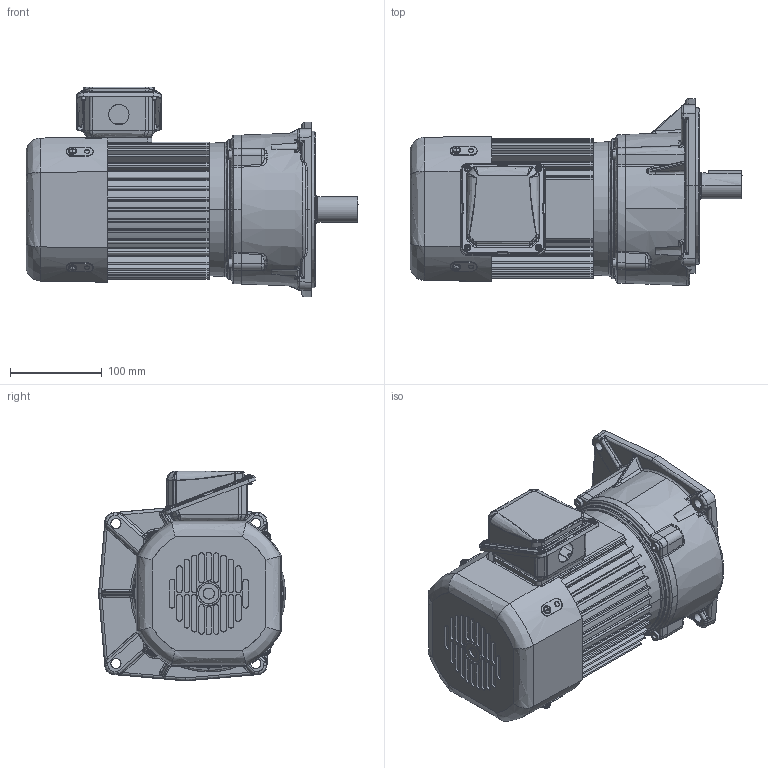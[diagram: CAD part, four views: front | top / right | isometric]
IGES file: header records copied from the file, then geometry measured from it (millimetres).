
Start section: SolidWorks IGES file using analytic representation for surfaces
Global section: file name: \\100.100.100.8\1_共有作業フォルダ\1-5_３Ｄデータ\solidworks\personal-folder\H.Nagayama\SGP1外形075~370\P1(3D)_075~370\igs\TMF2-07-(5~25).IGS; native system: SolidWorks 2018; preprocessor: SolidWorks 2018; author: sigma-giken; date: 200806.151419; units: millimetre
Bounding box: 361 x 203.34 x 228.2 mm (x, y, z)
Surface area: 518882.9 mm2 (no closed solid volume)
Topology: 0 solids, 0 shells, 1670 faces, 20064 edges, 20022 vertices
Faces by surface type: bspline 876, revolution 794
